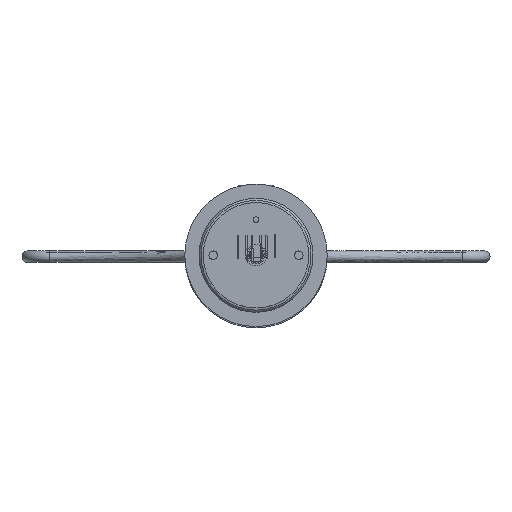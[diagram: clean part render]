
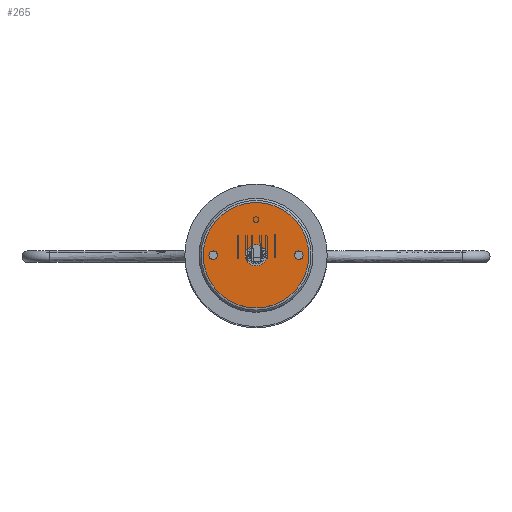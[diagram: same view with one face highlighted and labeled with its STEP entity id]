
A CAD part, top view. The second image highlights one B-rep face of the part: STEP entity #265.
In plain terms, the highlighted planar face has unit normal (0, 0, 1).
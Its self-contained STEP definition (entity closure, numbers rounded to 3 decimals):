
#265 = ADVANCED_FACE( '', ( #424, #425, #426, #427 ), #428, .T. );
#424 = FACE_BOUND( '', #641, .T. );
#425 = FACE_OUTER_BOUND( '', #642, .T. );
#426 = FACE_BOUND( '', #643, .T. );
#427 = FACE_BOUND( '', #644, .T. );
#428 = PLANE( '', #645 );
#641 = EDGE_LOOP( '', ( #1397 ) );
#642 = EDGE_LOOP( '', ( #1398 ) );
#643 = EDGE_LOOP( '', ( #1399 ) );
#644 = EDGE_LOOP( '', ( #1400 ) );
#645 = AXIS2_PLACEMENT_3D( '', #1401, #1402, #1403 );
#1397 = ORIENTED_EDGE( '', *, *, #2666, .T. );
#1398 = ORIENTED_EDGE( '', *, *, #2669, .T. );
#1399 = ORIENTED_EDGE( '', *, *, #2660, .T. );
#1400 = ORIENTED_EDGE( '', *, *, #2670, .T. );
#1401 = CARTESIAN_POINT( '', ( -40., 0., 30. ) );
#1402 = DIRECTION( '', ( 0., 0., 1. ) );
#1403 = DIRECTION( '', ( 1., 0., 0. ) );
#2660 = EDGE_CURVE( '', #5914, #5914, #5915, .F. );
#2666 = EDGE_CURVE( '', #5924, #5924, #5925, .F. );
#2669 = EDGE_CURVE( '', #5929, #5929, #5930, .T. );
#2670 = EDGE_CURVE( '', #5931, #5931, #5932, .F. );
#5914 = VERTEX_POINT( '', #9704 );
#5915 = CIRCLE( '', #9705, 7.5 );
#5924 = VERTEX_POINT( '', #9795 );
#5925 = CIRCLE( '', #9796, 3. );
#5929 = VERTEX_POINT( '', #9800 );
#5930 = CIRCLE( '', #9801, 37. );
#5931 = VERTEX_POINT( '', #9802 );
#5932 = CIRCLE( '', #9803, 3. );
#9704 = CARTESIAN_POINT( '', ( 7.5, 0., 30. ) );
#9705 = AXIS2_PLACEMENT_3D( '', #10993, #10994, #10995 );
#9795 = CARTESIAN_POINT( '', ( -27., 0., 30. ) );
#9796 = AXIS2_PLACEMENT_3D( '', #10999, #11000, #11001 );
#9800 = CARTESIAN_POINT( '', ( 37., 0., 30. ) );
#9801 = AXIS2_PLACEMENT_3D( '', #11005, #11006, #11007 );
#9802 = CARTESIAN_POINT( '', ( 33., 0., 30. ) );
#9803 = AXIS2_PLACEMENT_3D( '', #11008, #11009, #11010 );
#10993 = CARTESIAN_POINT( '', ( 0., 0., 30. ) );
#10994 = DIRECTION( '', ( 0., 0., 1. ) );
#10995 = DIRECTION( '', ( 1., 0., 0. ) );
#10999 = CARTESIAN_POINT( '', ( -30., 0., 30. ) );
#11000 = DIRECTION( '', ( 0., 0., 1. ) );
#11001 = DIRECTION( '', ( 1., 0., 0. ) );
#11005 = CARTESIAN_POINT( '', ( 0., 0., 30. ) );
#11006 = DIRECTION( '', ( 0., 0., 1. ) );
#11007 = DIRECTION( '', ( 1., 0., 0. ) );
#11008 = CARTESIAN_POINT( '', ( 30., 0., 30. ) );
#11009 = DIRECTION( '', ( 0., 0., 1. ) );
#11010 = DIRECTION( '', ( 1., 0., 0. ) );
